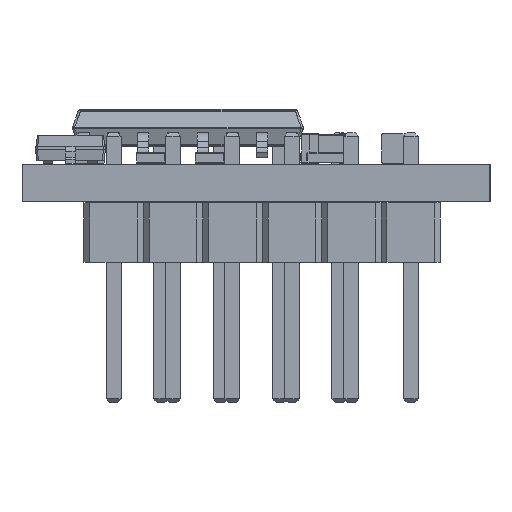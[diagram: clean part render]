
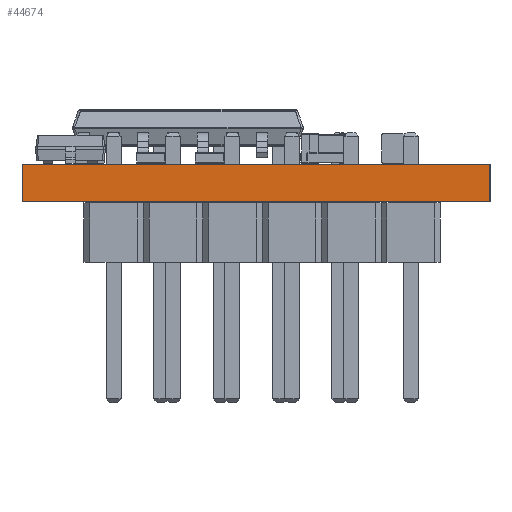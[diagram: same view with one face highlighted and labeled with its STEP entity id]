
A CAD part, left-side view. The second image highlights one B-rep face of the part: STEP entity #44674.
In plain terms, the highlighted planar face has unit normal (-1, 0, 0).
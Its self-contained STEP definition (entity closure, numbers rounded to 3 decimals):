
#44674 = ADVANCED_FACE('',(#44675),#44689,.T.);
#44675 = FACE_BOUND('',#44676,.T.);
#44676 = EDGE_LOOP('',(#44677,#44712,#44740,#44768));
#44677 = ORIENTED_EDGE('',*,*,#44678,.T.);
#44678 = EDGE_CURVE('',#44679,#44681,#44683,.T.);
#44679 = VERTEX_POINT('',#44680);
#44680 = CARTESIAN_POINT('',(100.,-90.,0.));
#44681 = VERTEX_POINT('',#44682);
#44682 = CARTESIAN_POINT('',(100.,-90.,1.6));
#44683 = SURFACE_CURVE('',#44684,(#44688,#44700),.PCURVE_S1.);
#44684 = LINE('',#44685,#44686);
#44685 = CARTESIAN_POINT('',(100.,-90.,0.));
#44686 = VECTOR('',#44687,1.);
#44687 = DIRECTION('',(0.,0.,1.));
#44688 = PCURVE('',#44689,#44694);
#44689 = PLANE('',#44690);
#44690 = AXIS2_PLACEMENT_3D('',#44691,#44692,#44693);
#44691 = CARTESIAN_POINT('',(100.,-90.,0.));
#44692 = DIRECTION('',(-1.,0.,0.));
#44693 = DIRECTION('',(0.,1.,0.));
#44694 = DEFINITIONAL_REPRESENTATION('',(#44695),#44699);
#44695 = LINE('',#44696,#44697);
#44696 = CARTESIAN_POINT('',(0.,0.));
#44697 = VECTOR('',#44698,1.);
#44698 = DIRECTION('',(0.,-1.));
#44699 = ( GEOMETRIC_REPRESENTATION_CONTEXT(2) 
PARAMETRIC_REPRESENTATION_CONTEXT() REPRESENTATION_CONTEXT('2D SPACE',''
  ) );
#44700 = PCURVE('',#44701,#44706);
#44701 = PLANE('',#44702);
#44702 = AXIS2_PLACEMENT_3D('',#44703,#44704,#44705);
#44703 = CARTESIAN_POINT('',(134.,-90.,0.));
#44704 = DIRECTION('',(0.,-1.,0.));
#44705 = DIRECTION('',(-1.,0.,0.));
#44706 = DEFINITIONAL_REPRESENTATION('',(#44707),#44711);
#44707 = LINE('',#44708,#44709);
#44708 = CARTESIAN_POINT('',(34.,0.));
#44709 = VECTOR('',#44710,1.);
#44710 = DIRECTION('',(0.,-1.));
#44711 = ( GEOMETRIC_REPRESENTATION_CONTEXT(2) 
PARAMETRIC_REPRESENTATION_CONTEXT() REPRESENTATION_CONTEXT('2D SPACE',''
  ) );
#44712 = ORIENTED_EDGE('',*,*,#44713,.T.);
#44713 = EDGE_CURVE('',#44681,#44714,#44716,.T.);
#44714 = VERTEX_POINT('',#44715);
#44715 = CARTESIAN_POINT('',(100.,-70.,1.6));
#44716 = SURFACE_CURVE('',#44717,(#44721,#44728),.PCURVE_S1.);
#44717 = LINE('',#44718,#44719);
#44718 = CARTESIAN_POINT('',(100.,-90.,1.6));
#44719 = VECTOR('',#44720,1.);
#44720 = DIRECTION('',(0.,1.,0.));
#44721 = PCURVE('',#44689,#44722);
#44722 = DEFINITIONAL_REPRESENTATION('',(#44723),#44727);
#44723 = LINE('',#44724,#44725);
#44724 = CARTESIAN_POINT('',(0.,-1.6));
#44725 = VECTOR('',#44726,1.);
#44726 = DIRECTION('',(1.,0.));
#44727 = ( GEOMETRIC_REPRESENTATION_CONTEXT(2) 
PARAMETRIC_REPRESENTATION_CONTEXT() REPRESENTATION_CONTEXT('2D SPACE',''
  ) );
#44728 = PCURVE('',#44729,#44734);
#44729 = PLANE('',#44730);
#44730 = AXIS2_PLACEMENT_3D('',#44731,#44732,#44733);
#44731 = CARTESIAN_POINT('',(117.,-80.,1.6));
#44732 = DIRECTION('',(-0.,-0.,-1.));
#44733 = DIRECTION('',(-1.,0.,0.));
#44734 = DEFINITIONAL_REPRESENTATION('',(#44735),#44739);
#44735 = LINE('',#44736,#44737);
#44736 = CARTESIAN_POINT('',(17.,-10.));
#44737 = VECTOR('',#44738,1.);
#44738 = DIRECTION('',(0.,1.));
#44739 = ( GEOMETRIC_REPRESENTATION_CONTEXT(2) 
PARAMETRIC_REPRESENTATION_CONTEXT() REPRESENTATION_CONTEXT('2D SPACE',''
  ) );
#44740 = ORIENTED_EDGE('',*,*,#44741,.F.);
#44741 = EDGE_CURVE('',#44742,#44714,#44744,.T.);
#44742 = VERTEX_POINT('',#44743);
#44743 = CARTESIAN_POINT('',(100.,-70.,0.));
#44744 = SURFACE_CURVE('',#44745,(#44749,#44756),.PCURVE_S1.);
#44745 = LINE('',#44746,#44747);
#44746 = CARTESIAN_POINT('',(100.,-70.,0.));
#44747 = VECTOR('',#44748,1.);
#44748 = DIRECTION('',(0.,0.,1.));
#44749 = PCURVE('',#44689,#44750);
#44750 = DEFINITIONAL_REPRESENTATION('',(#44751),#44755);
#44751 = LINE('',#44752,#44753);
#44752 = CARTESIAN_POINT('',(20.,0.));
#44753 = VECTOR('',#44754,1.);
#44754 = DIRECTION('',(0.,-1.));
#44755 = ( GEOMETRIC_REPRESENTATION_CONTEXT(2) 
PARAMETRIC_REPRESENTATION_CONTEXT() REPRESENTATION_CONTEXT('2D SPACE',''
  ) );
#44756 = PCURVE('',#44757,#44762);
#44757 = PLANE('',#44758);
#44758 = AXIS2_PLACEMENT_3D('',#44759,#44760,#44761);
#44759 = CARTESIAN_POINT('',(100.,-70.,0.));
#44760 = DIRECTION('',(0.,1.,0.));
#44761 = DIRECTION('',(1.,0.,0.));
#44762 = DEFINITIONAL_REPRESENTATION('',(#44763),#44767);
#44763 = LINE('',#44764,#44765);
#44764 = CARTESIAN_POINT('',(0.,0.));
#44765 = VECTOR('',#44766,1.);
#44766 = DIRECTION('',(0.,-1.));
#44767 = ( GEOMETRIC_REPRESENTATION_CONTEXT(2) 
PARAMETRIC_REPRESENTATION_CONTEXT() REPRESENTATION_CONTEXT('2D SPACE',''
  ) );
#44768 = ORIENTED_EDGE('',*,*,#44769,.F.);
#44769 = EDGE_CURVE('',#44679,#44742,#44770,.T.);
#44770 = SURFACE_CURVE('',#44771,(#44775,#44782),.PCURVE_S1.);
#44771 = LINE('',#44772,#44773);
#44772 = CARTESIAN_POINT('',(100.,-90.,0.));
#44773 = VECTOR('',#44774,1.);
#44774 = DIRECTION('',(0.,1.,0.));
#44775 = PCURVE('',#44689,#44776);
#44776 = DEFINITIONAL_REPRESENTATION('',(#44777),#44781);
#44777 = LINE('',#44778,#44779);
#44778 = CARTESIAN_POINT('',(0.,0.));
#44779 = VECTOR('',#44780,1.);
#44780 = DIRECTION('',(1.,0.));
#44781 = ( GEOMETRIC_REPRESENTATION_CONTEXT(2) 
PARAMETRIC_REPRESENTATION_CONTEXT() REPRESENTATION_CONTEXT('2D SPACE',''
  ) );
#44782 = PCURVE('',#44783,#44788);
#44783 = PLANE('',#44784);
#44784 = AXIS2_PLACEMENT_3D('',#44785,#44786,#44787);
#44785 = CARTESIAN_POINT('',(117.,-80.,0.));
#44786 = DIRECTION('',(-0.,-0.,-1.));
#44787 = DIRECTION('',(-1.,0.,0.));
#44788 = DEFINITIONAL_REPRESENTATION('',(#44789),#44793);
#44789 = LINE('',#44790,#44791);
#44790 = CARTESIAN_POINT('',(17.,-10.));
#44791 = VECTOR('',#44792,1.);
#44792 = DIRECTION('',(0.,1.));
#44793 = ( GEOMETRIC_REPRESENTATION_CONTEXT(2) 
PARAMETRIC_REPRESENTATION_CONTEXT() REPRESENTATION_CONTEXT('2D SPACE',''
  ) );
